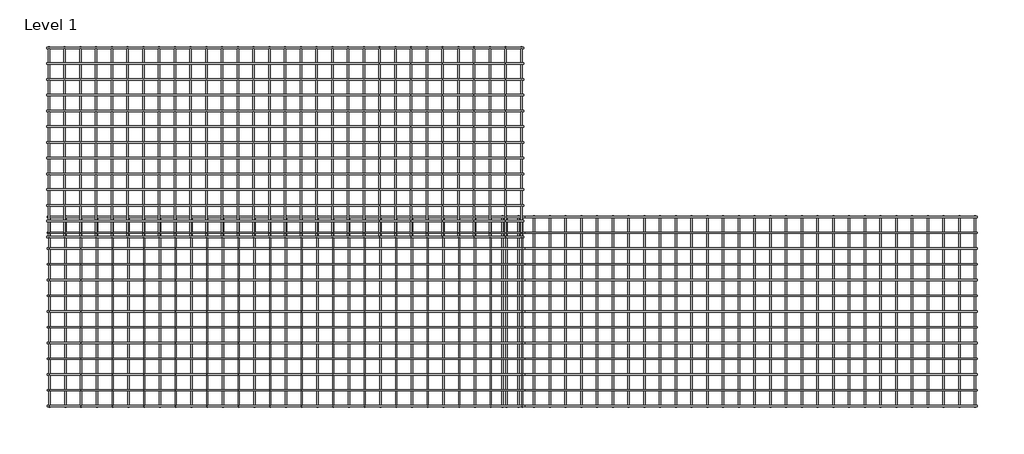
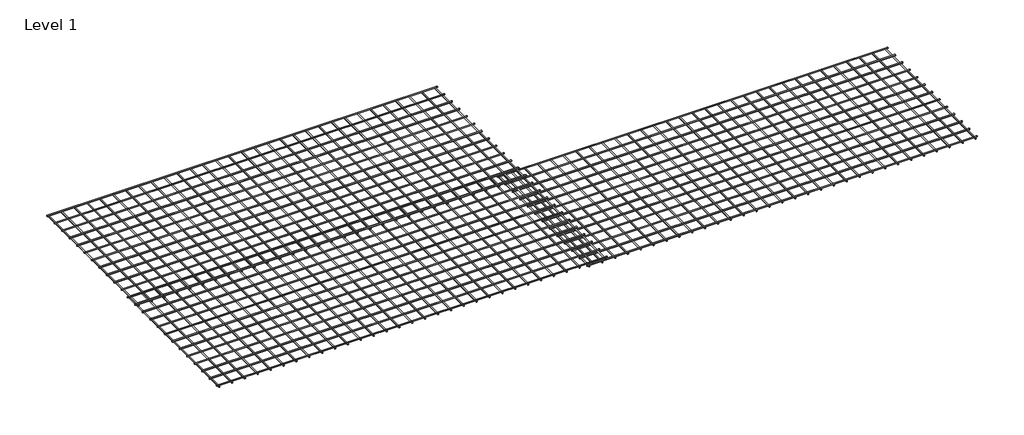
# One storey: 3 proxies.
"""IFC4 building model written with IfcOpenShell, lengths in millimetres."""

from ifc_helpers import new_model, si_unit, origin, place, context, project, spatial, transform, mapped, element, save
from components import united_steel_ductile_se92_large_mesh_united_steel_ductile_729967f6

model = new_model("IFC4")

# Units and contexts
model_context = context("Model", 3, world=origin())
ifc_project = project(units=[si_unit("LENGTHUNIT", "METRE", prefix="MILLI")], contexts=[model_context])

# Site, building, storey
site = spatial("IfcSite", under=ifc_project)
building = spatial("IfcBuilding", under=site)
storey = spatial("IfcBuildingStorey", under=building, Name="Level 1", Elevation=0.0)

# Proxies
placement = place(None, origin())
united_steel_ductile_se92_large_mesh_united_steel_ductile_shape = united_steel_ductile_se92_large_mesh_united_steel_ductile_729967f6(model_context)
element("IfcBuildingElementProxy", 1, Name="United Steel Ductile SE92 Large Mesh : United Steel Ductile SE92 Large Mesh", ObjectType="United Steel Ductile SE92 Large Mesh : United Steel Ductile SE92 Large Mesh", at=placement, inside=storey, context=model_context, shape_type="MappedRepresentation", body=[
    mapped(united_steel_ductile_se92_large_mesh_united_steel_ductile_shape, transform((5496.2856589, 2142.5657499, 84.375), x_axis=(1.0, 0.0, 0.0), y_axis=(0.0, 1.0, 0.0), z_axis=(0.0, 0.0, 1.0))),
])
element("IfcBuildingElementProxy", 2, Name="United Steel Ductile SE92 Large Mesh : United Steel Ductile SE92 Large Mesh", ObjectType="United Steel Ductile SE92 Large Mesh : United Steel Ductile SE92 Large Mesh", at=placement, inside=storey, context=model_context, shape_type="MappedRepresentation", body=[
    mapped(united_steel_ductile_se92_large_mesh_united_steel_ductile_shape, transform((5486.2856589, 4291.3824308, 120.0), x_axis=(1.0, 0.0, 0.0), y_axis=(0.0, 1.0, 0.0), z_axis=(0.0, 0.0, 1.0))),
])
element("IfcBuildingElementProxy", 3, Name="United Steel Ductile SE92 Large Mesh : United Steel Ductile SE92 Large Mesh", ObjectType="United Steel Ductile SE92 Large Mesh : United Steel Ductile SE92 Large Mesh", at=placement, inside=storey, context=model_context, shape_type="MappedRepresentation", body=[
    mapped(united_steel_ductile_se92_large_mesh_united_steel_ductile_shape, transform((11246.1955059, 2142.5757703, 48.75), x_axis=(1.0, 0.0, 0.0), y_axis=(0.0, 1.0, 0.0), z_axis=(0.0, 0.0, 1.0))),
])

save(model, "model.ifc")
